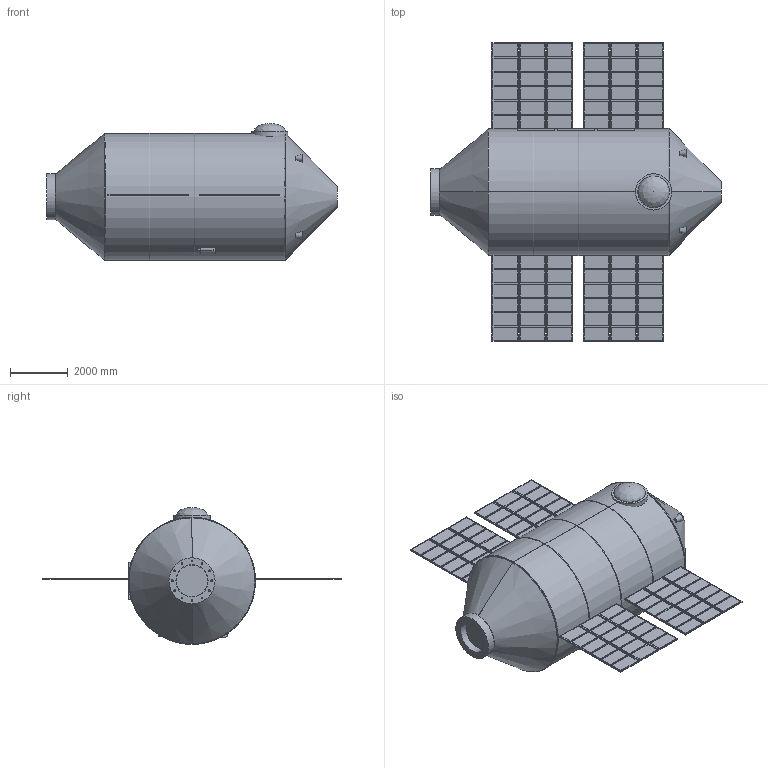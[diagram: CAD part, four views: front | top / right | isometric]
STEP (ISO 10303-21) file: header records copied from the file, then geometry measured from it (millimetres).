
FILE_DESCRIPTION(('FreeCAD Model'),'2;1');
FILE_NAME('Open CASCADE Shape Model','2026-10-28T17:34:27',('Author'),( ''),'Open CASCADE STEP processor 7.8','FreeCAD','Unknown');
FILE_SCHEMA(('AUTOMOTIVE_DESIGN { 1 0 10303 214 1 1 1 1 }'));
Length unit declared in the file: millimetre
Products named in the file (222): Haven1_Public_Reference_R1; Dock cone / near shell; Dock cone / far shell; Barrel / near shell; Barrel / far shell; Window-end cone / near shell; Window-end cone / far shell; Exterior circumferential seam; Exterior circumferential seam001; Exterior circumferential seam002; Exterior circumferential seam003; Exterior circumferential seam004; Passive docking adapter; Docking pressure hatch; Docking interface lug 01; Docking interface lug 02; Docking interface lug 03; Docking interface lug 04; Docking interface lug 05; Docking interface lug 06; Docking interface lug 07; Docking interface lug 08; Docking interface lug 09; Docking interface lug 10; Docking interface lug 11; Docking interface lug 12; Observation window bezel; 1.1 m domed window; Solar wing L-1; PV tile (visual subdivision); PV tile (visual subdivision)001; PV tile (visual subdivision)002; PV tile (visual subdivision)003; PV tile (visual subdivision)004; PV tile (visual subdivision)005; Solar wing L-2; PV tile (visual subdivision)006; PV tile (visual subdivision)007; PV tile (visual subdivision)008; PV tile (visual subdivision)009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
Assembly tree (221 placements, depth 2):
  Haven1_Public_Reference_R1
    Dock cone / near shell
    Dock cone / far shell
    Barrel / near shell
    Barrel / far shell
    Window-end cone / near shell
    Window-end cone / far shell
    Exterior circumferential seam
    Exterior circumferential seam001
    Exterior circumferential seam002
    Exterior circumferential seam003
    Exterior circumferential seam004
    Passive docking adapter
    Docking pressure hatch
    Docking interface lug 01
    Docking interface lug 02
    Docking interface lug 03
    Docking interface lug 04
    Docking interface lug 05
    Docking interface lug 06
    Docking interface lug 07
    Docking interface lug 08
    Docking interface lug 09
    Docking interface lug 10
    Docking interface lug 11
    Docking interface lug 12
    Observation window bezel
    1.1 m domed window
    Solar wing L-1
    PV tile (visual subdivision)
    PV tile (visual subdivision)001
    PV tile (visual subdivision)002
    PV tile (visual subdivision)003
    PV tile (visual subdivision)004
    PV tile (visual subdivision)005
    Solar wing L-2
    PV tile (visual subdivision)006
    PV tile (visual subdivision)007
    PV tile (visual subdivision)008
    PV tile (visual subdivision)009
    PV tile (visual subdivision)010
    PV tile (visual subdivision)011
    Solar wing L-3
    PV tile (visual subdivision)012
    PV tile (visual subdivision)013
    PV tile (visual subdivision)014
    PV tile (visual subdivision)015
    PV tile (visual subdivision)016
    PV tile (visual subdivision)017
    Solar wing L-4
    PV tile (visual subdivision)018
    PV tile (visual subdivision)019
    PV tile (visual subdivision)020
    PV tile (visual subdivision)021
    PV tile (visual subdivision)022
    PV tile (visual subdivision)023
    Solar wing L-5
    PV tile (visual subdivision)024
    PV tile (visual subdivision)025
    PV tile (visual subdivision)026
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Bounding box: 10100 x 10360 x 4764 mm (x, y, z)
Volume: 13718600809.4 mm3; surface area: 791688403.5 mm2
Topology: 221 solids, 221 shells, 1145 faces, 2125 edges, 1415 vertices
Faces by surface type: plane 1039, cylinder 88, cone 12, torus 5, bspline 1
Full cylindrical faces by diameter (mm): 16 x10, 20 x10, 24 x4, 30 x4, 50 x6, 64 x12, 180 x1, 200 x2, 220 x5, 320 x9, 440 x7, 480 x1, 600 x1, 700 x1, 1100 x2, 1120 x1, 1260 x1, 1600 x1
Entity records: 31997 total; most frequent: CARTESIAN_POINT 5340, DIRECTION 5056, ORIENTED_EDGE 4248, EDGE_CURVE 2124, LINE 1912, VECTOR 1912, AXIS2_PLACEMENT_3D 1572, VERTEX_POINT 1415
